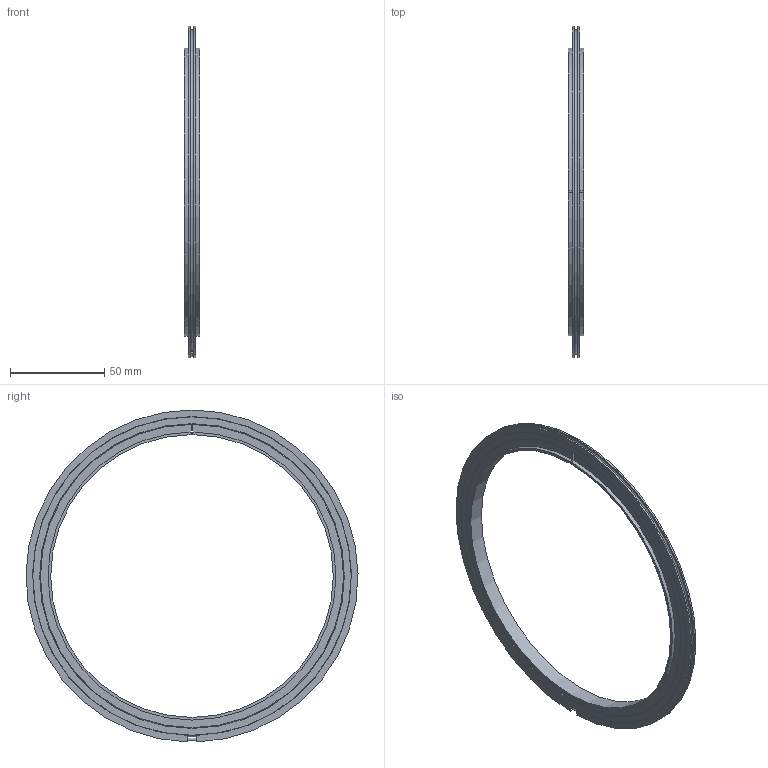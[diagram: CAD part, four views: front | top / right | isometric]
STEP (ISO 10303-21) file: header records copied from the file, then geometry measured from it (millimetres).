
FILE_DESCRIPTION((''),'2;1');
FILE_NAME('26843_88707_26809_DN1_SW0002','2016-01-22T',('l0100062'),('Copyright by Leybold GmbH'),'PRO/ENGINEER BY PARAMETRIC TECHNOLOGY CORPORATION, 2015280','PRO/ENGINEER BY PARAMETRIC TECHNOLOGY CORPORATION, 2015280','');
FILE_SCHEMA(('AUTOMOTIVE_DESIGN { 1 0 10303 214 1 1 1 1 }'));
Length unit declared in the file: millimetre
Products named in the file (1): 26843_88707_26809_DN1_SW0002
Bounding box: 8 x 176.18 x 176.16 mm (x, y, z)
Volume: 26915.1 mm3; surface area: 23601.3 mm2
Topology: 2 solids, 2 shells, 34 faces, 102 edges, 72 vertices
Faces by surface type: plane 16, cylinder 7, revolution 6, torus 5
Entity records: 1683 total; most frequent: CARTESIAN_POINT 412, ORIENTED_EDGE 204, DIRECTION 196, EDGE_CURVE 102, AXIS2_PLACEMENT_3D 80, VERTEX_POINT 72, CIRCLE 52, COLOUR_RGB 46
